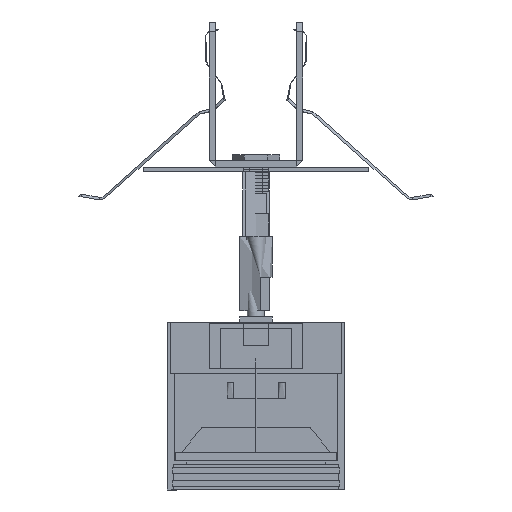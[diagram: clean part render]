
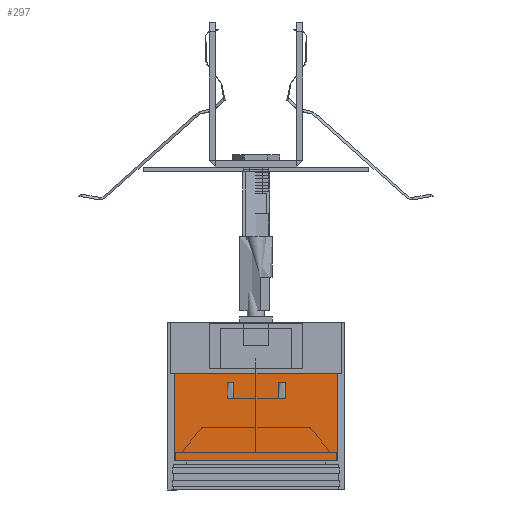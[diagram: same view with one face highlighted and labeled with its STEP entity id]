
A CAD part, front view. The second image highlights one B-rep face of the part: STEP entity #297.
In plain terms, the highlighted free-form (B-spline) face has degree [1, 2] with [2, 5] control points.
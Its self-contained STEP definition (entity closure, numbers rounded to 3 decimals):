
#297=ADVANCED_FACE('',(#682),#11649,.T.);
#682=FACE_OUTER_BOUND('',#1072,.T.);
#1072=EDGE_LOOP('',(#1768,#1769,#1770,#1771));
#1768=ORIENTED_EDGE('',*,*,#8294,.T.);
#1769=ORIENTED_EDGE('',*,*,#8295,.T.);
#1770=ORIENTED_EDGE('',*,*,#8296,.T.);
#1771=ORIENTED_EDGE('',*,*,#8297,.T.);
#3190=(
BOUNDED_CURVE()
B_SPLINE_CURVE(2,(#15091,#15092,#15093,#15094,#15095),.UNSPECIFIED.,.F.,
 .F.)
B_SPLINE_CURVE_WITH_KNOTS((3,2,3),(-59.,-29.5,
0.),.UNSPECIFIED.)
CURVE()
GEOMETRIC_REPRESENTATION_ITEM()
RATIONAL_B_SPLINE_CURVE((1.,0.707,1.,0.707,1.))
REPRESENTATION_ITEM('')
);
#3191=(
BOUNDED_CURVE()
B_SPLINE_CURVE(2,(#15102,#15103,#15104,#15105,#15106),.UNSPECIFIED.,.F.,
 .F.)
B_SPLINE_CURVE_WITH_KNOTS((3,2,3),(0.,29.5,59.),
 .UNSPECIFIED.)
CURVE()
GEOMETRIC_REPRESENTATION_ITEM()
RATIONAL_B_SPLINE_CURVE((1.,0.707,1.,0.707,1.))
REPRESENTATION_ITEM('')
);
#4206=PCURVE('',#11649,#5870);
#4207=PCURVE('',#11649,#5871);
#4208=PCURVE('',#11649,#5872);
#4209=PCURVE('',#11649,#5873);
#4210=PCURVE('',#11650,#5874);
#4276=PCURVE('',#11666,#5940);
#4278=PCURVE('',#11667,#5942);
#4280=PCURVE('',#11667,#5944);
#5870=DEFINITIONAL_REPRESENTATION('',(#9488),#34094);
#5871=DEFINITIONAL_REPRESENTATION('',(#9490),#34094);
#5872=DEFINITIONAL_REPRESENTATION('',(#9491),#34094);
#5873=DEFINITIONAL_REPRESENTATION('',(#9493),#34094);
#5874=DEFINITIONAL_REPRESENTATION('',(#9494),#34094);
#5940=DEFINITIONAL_REPRESENTATION('',(#9593),#34094);
#5942=DEFINITIONAL_REPRESENTATION('',(#9596),#34094);
#5944=DEFINITIONAL_REPRESENTATION('',(#9598),#34094);
#7342=SURFACE_CURVE('',#3190,(#4206,#4276),.PCURVE_S1.);
#7343=SURFACE_CURVE('',#9489,(#4207,#4280),.PCURVE_S1.);
#7344=SURFACE_CURVE('',#3191,(#4208,#4210),.PCURVE_S1.);
#7345=SURFACE_CURVE('',#9492,(#4209,#4278),.PCURVE_S1.);
#8294=EDGE_CURVE('',#11024,#11007,#7342,.T.);
#8295=EDGE_CURVE('',#11007,#11006,#7343,.T.);
#8296=EDGE_CURVE('',#11006,#11025,#7344,.T.);
#8297=EDGE_CURVE('',#11025,#11024,#7345,.T.);
#9488=B_SPLINE_CURVE_WITH_KNOTS('',1,(#15096,#15097),.UNSPECIFIED.,.F.,
 .F.,(2,2),(-59.,0.),.UNSPECIFIED.);
#9489=B_SPLINE_CURVE_WITH_KNOTS('',1,(#15098,#15099),.UNSPECIFIED.,.F.,
 .F.,(2,2),(90.854,118.),.UNSPECIFIED.);
#9490=B_SPLINE_CURVE_WITH_KNOTS('',1,(#15100,#15101),.UNSPECIFIED.,.F.,
 .F.,(2,2),(90.854,118.),.UNSPECIFIED.);
#9491=B_SPLINE_CURVE_WITH_KNOTS('',1,(#15107,#15108),.UNSPECIFIED.,.F.,
 .F.,(2,2),(0.,59.),.UNSPECIFIED.);
#9492=B_SPLINE_CURVE_WITH_KNOTS('',1,(#15109,#15110),.UNSPECIFIED.,.F.,
 .F.,(2,2),(-118.,-90.854),.UNSPECIFIED.);
#9493=B_SPLINE_CURVE_WITH_KNOTS('',1,(#15111,#15112),.UNSPECIFIED.,.F.,
 .F.,(2,2),(-118.,-90.854),.UNSPECIFIED.);
#9494=B_SPLINE_CURVE_WITH_KNOTS('',1,(#15113,#15114),.UNSPECIFIED.,.F.,
 .F.,(2,2),(0.,59.),.UNSPECIFIED.);
#9593=B_SPLINE_CURVE_WITH_KNOTS('',1,(#15391,#15392),.UNSPECIFIED.,.F.,
 .F.,(2,2),(-59.,0.),.UNSPECIFIED.);
#9596=B_SPLINE_CURVE_WITH_KNOTS('',1,(#15397,#15398),.UNSPECIFIED.,.F.,
 .F.,(2,2),(-118.,-90.854),.UNSPECIFIED.);
#9598=B_SPLINE_CURVE_WITH_KNOTS('',1,(#15406,#15407),.UNSPECIFIED.,.F.,
 .F.,(2,2),(90.854,118.),.UNSPECIFIED.);
#11006=VERTEX_POINT('',#15055);
#11007=VERTEX_POINT('',#15056);
#11024=VERTEX_POINT('',#15073);
#11025=VERTEX_POINT('',#15074);
#11649=(
BOUNDED_SURFACE()
B_SPLINE_SURFACE(1,2,((#14695,#14696,#14697,#14698,#14699),(#14700,#14701,
#14702,#14703,#14704)),.UNSPECIFIED.,.F.,.F.,.F.)
B_SPLINE_SURFACE_WITH_KNOTS((2,2),(3,2,3),(90.854,118.),
(0.,29.5,59.),.UNSPECIFIED.)
GEOMETRIC_REPRESENTATION_ITEM()
RATIONAL_B_SPLINE_SURFACE(((1.,0.707,1.,0.707,1.),
(1.,0.707,1.,0.707,1.)))
REPRESENTATION_ITEM('')
SURFACE()
);
#11650=(
BOUNDED_SURFACE()
B_SPLINE_SURFACE(1,2,((#14705,#14706,#14707,#14708,#14709),(#14710,#14711,
#14712,#14713,#14714)),.UNSPECIFIED.,.F.,.F.,.F.)
B_SPLINE_SURFACE_WITH_KNOTS((2,2),(3,2,3),(0.,1.25),(0.,29.5,
59.),.UNSPECIFIED.)
GEOMETRIC_REPRESENTATION_ITEM()
RATIONAL_B_SPLINE_SURFACE(((1.,0.707,1.,0.707,1.),
(1.,0.707,1.,0.707,1.)))
REPRESENTATION_ITEM('')
SURFACE()
);
#11666=(
BOUNDED_SURFACE()
B_SPLINE_SURFACE(1,2,((#14865,#14866,#14867,#14868,#14869),(#14870,#14871,
#14872,#14873,#14874)),.UNSPECIFIED.,.F.,.F.,.F.)
B_SPLINE_SURFACE_WITH_KNOTS((2,2),(3,2,3),(87.104,90.854),
(0.,29.5,59.),.UNSPECIFIED.)
GEOMETRIC_REPRESENTATION_ITEM()
RATIONAL_B_SPLINE_SURFACE(((1.,0.707,1.,0.707,1.),
(1.,0.707,1.,0.707,1.)))
REPRESENTATION_ITEM('')
SURFACE()
);
#11667=(
BOUNDED_SURFACE()
B_SPLINE_SURFACE(1,2,((#14875,#14876,#14877,#14878,#14879),(#14880,#14881,
#14882,#14883,#14884)),.UNSPECIFIED.,.F.,.F.,.F.)
B_SPLINE_SURFACE_WITH_KNOTS((2,2),(3,2,3),(90.854,118.),
(59.,88.5,118.),.UNSPECIFIED.)
GEOMETRIC_REPRESENTATION_ITEM()
RATIONAL_B_SPLINE_SURFACE(((1.,0.707,1.,0.707,1.),
(1.,0.707,1.,0.707,1.)))
REPRESENTATION_ITEM('')
SURFACE()
);
#14695=CARTESIAN_POINT('',(25.25,0.,9.));
#14696=CARTESIAN_POINT('',(25.25,25.25,9.));
#14697=CARTESIAN_POINT('',(0.,25.25,9.));
#14698=CARTESIAN_POINT('',(-25.25,25.25,9.));
#14699=CARTESIAN_POINT('',(-25.25,0.,9.));
#14700=CARTESIAN_POINT('',(25.25,0.,36.145));
#14701=CARTESIAN_POINT('',(25.25,25.25,36.145));
#14702=CARTESIAN_POINT('',(0.,25.25,36.145));
#14703=CARTESIAN_POINT('',(-25.25,25.25,36.145));
#14704=CARTESIAN_POINT('',(-25.25,0.,36.145));
#14705=CARTESIAN_POINT('',(25.25,0.,36.145));
#14706=CARTESIAN_POINT('',(25.25,25.25,36.145));
#14707=CARTESIAN_POINT('',(0.,25.25,36.145));
#14708=CARTESIAN_POINT('',(-25.25,25.25,36.145));
#14709=CARTESIAN_POINT('',(-25.25,0.,36.145));
#14710=CARTESIAN_POINT('',(26.5,0.,36.145));
#14711=CARTESIAN_POINT('',(26.5,26.5,36.145));
#14712=CARTESIAN_POINT('',(0.,26.5,36.145));
#14713=CARTESIAN_POINT('',(-26.5,26.5,36.145));
#14714=CARTESIAN_POINT('',(-26.5,0.,36.145));
#14865=CARTESIAN_POINT('',(21.5,0.,9.));
#14866=CARTESIAN_POINT('',(21.5,21.5,9.));
#14867=CARTESIAN_POINT('',(0.,21.5,9.));
#14868=CARTESIAN_POINT('',(-21.5,21.5,9.));
#14869=CARTESIAN_POINT('',(-21.5,0.,9.));
#14870=CARTESIAN_POINT('',(25.25,0.,9.));
#14871=CARTESIAN_POINT('',(25.25,25.25,9.));
#14872=CARTESIAN_POINT('',(0.,25.25,9.));
#14873=CARTESIAN_POINT('',(-25.25,25.25,9.));
#14874=CARTESIAN_POINT('',(-25.25,0.,9.));
#14875=CARTESIAN_POINT('',(-25.25,0.,9.));
#14876=CARTESIAN_POINT('',(-25.25,-25.25,9.));
#14877=CARTESIAN_POINT('',(0.,-25.25,9.));
#14878=CARTESIAN_POINT('',(25.25,-25.25,9.));
#14879=CARTESIAN_POINT('',(25.25,0.,9.));
#14880=CARTESIAN_POINT('',(-25.25,0.,36.145));
#14881=CARTESIAN_POINT('',(-25.25,-25.25,36.145));
#14882=CARTESIAN_POINT('',(0.,-25.25,36.145));
#14883=CARTESIAN_POINT('',(25.25,-25.25,36.145));
#14884=CARTESIAN_POINT('',(25.25,0.,36.145));
#15055=CARTESIAN_POINT('',(25.25,0.,36.145));
#15056=CARTESIAN_POINT('',(25.25,0.,9.));
#15073=CARTESIAN_POINT('',(-25.25,0.,9.));
#15074=CARTESIAN_POINT('',(-25.25,0.,36.145));
#15091=CARTESIAN_POINT('',(-25.25,0.,9.));
#15092=CARTESIAN_POINT('',(-25.25,25.25,9.));
#15093=CARTESIAN_POINT('',(0.,25.25,9.));
#15094=CARTESIAN_POINT('',(25.25,25.25,9.));
#15095=CARTESIAN_POINT('',(25.25,0.,9.));
#15096=CARTESIAN_POINT('',(90.854,59.));
#15097=CARTESIAN_POINT('',(90.854,0.));
#15098=CARTESIAN_POINT('',(25.25,0.,9.));
#15099=CARTESIAN_POINT('',(25.25,0.,36.145));
#15100=CARTESIAN_POINT('',(90.854,0.));
#15101=CARTESIAN_POINT('',(118.,0.));
#15102=CARTESIAN_POINT('',(25.25,0.,36.145));
#15103=CARTESIAN_POINT('',(25.25,25.25,36.145));
#15104=CARTESIAN_POINT('',(0.,25.25,36.145));
#15105=CARTESIAN_POINT('',(-25.25,25.25,36.145));
#15106=CARTESIAN_POINT('',(-25.25,0.,36.145));
#15107=CARTESIAN_POINT('',(118.,0.));
#15108=CARTESIAN_POINT('',(118.,59.));
#15109=CARTESIAN_POINT('',(-25.25,0.,36.145));
#15110=CARTESIAN_POINT('',(-25.25,0.,9.));
#15111=CARTESIAN_POINT('',(118.,59.));
#15112=CARTESIAN_POINT('',(90.854,59.));
#15113=CARTESIAN_POINT('',(0.,0.));
#15114=CARTESIAN_POINT('',(0.,59.));
#15391=CARTESIAN_POINT('',(90.854,59.));
#15392=CARTESIAN_POINT('',(90.854,0.));
#15397=CARTESIAN_POINT('',(118.,59.));
#15398=CARTESIAN_POINT('',(90.854,59.));
#15406=CARTESIAN_POINT('',(90.854,118.));
#15407=CARTESIAN_POINT('',(118.,118.));
#34094=(
GEOMETRIC_REPRESENTATION_CONTEXT(2)
PARAMETRIC_REPRESENTATION_CONTEXT()
REPRESENTATION_CONTEXT('pspace','')
);
